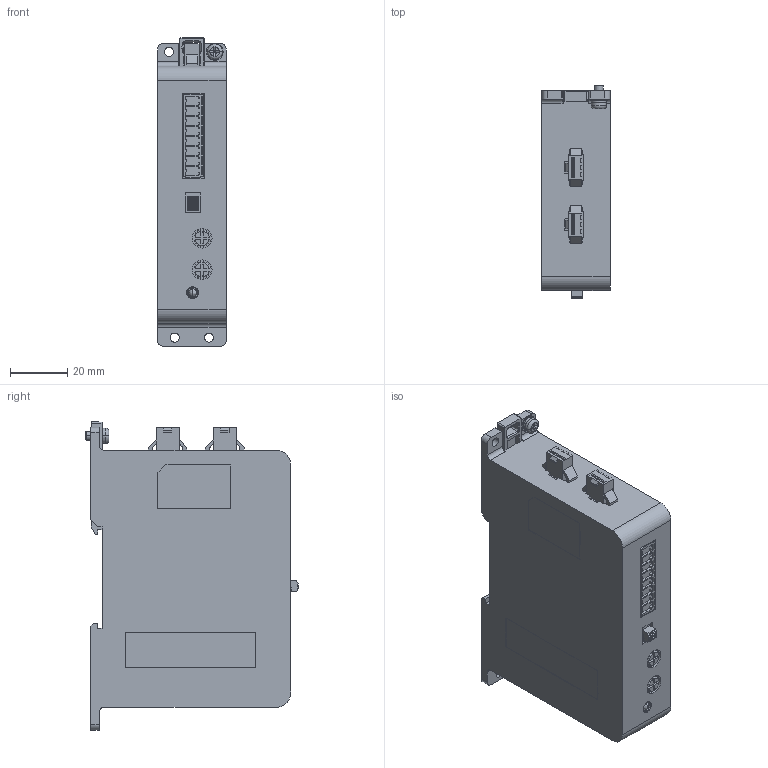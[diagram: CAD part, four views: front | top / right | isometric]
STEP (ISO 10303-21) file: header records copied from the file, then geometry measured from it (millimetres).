
FILE_DESCRIPTION((''),'2;1');
FILE_NAME('PRT0001','2024-07-03T21:44:30',('luozhiyong'),(''),'CREO PARAMETRIC BY PTC INC, 2020044','CREO PARAMETRIC BY PTC INC, 2020044','');
FILE_SCHEMA(('AUTOMOTIVE_DESIGN { 1 0 10303 214 1 1 1 1 }'));
Products named in the file (1): PRT0001
Bounding box: 24.1 x 74.38 x 107.9 mm (x, y, z)
Volume: 133919.5 mm3; surface area: 45042.6 mm2
Topology: 2 solids, 71 shells, 2916 faces, 8022 edges, 5312 vertices
Faces by surface type: plane 1941, cylinder 715, torus 124, cone 104, bspline 16, extrusion 8, sphere 8
Entity records: 112277 total; most frequent: CARTESIAN_POINT 28040, ORIENTED_EDGE 15566, DIRECTION 15086, EDGE_CURVE 8006, VECTOR 5592, LINE 5584, VERTEX_POINT 5312, AXIS2_PLACEMENT_3D 4747
